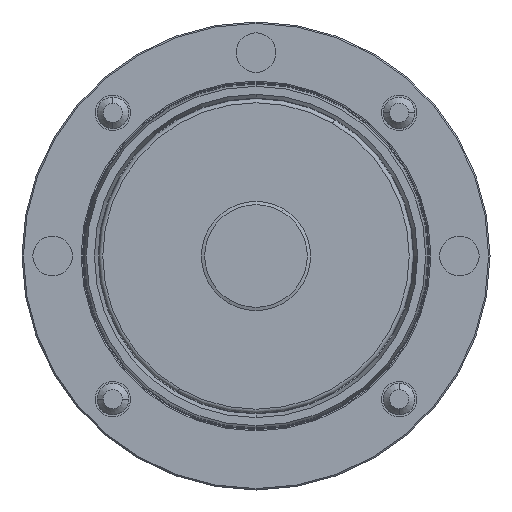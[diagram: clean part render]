
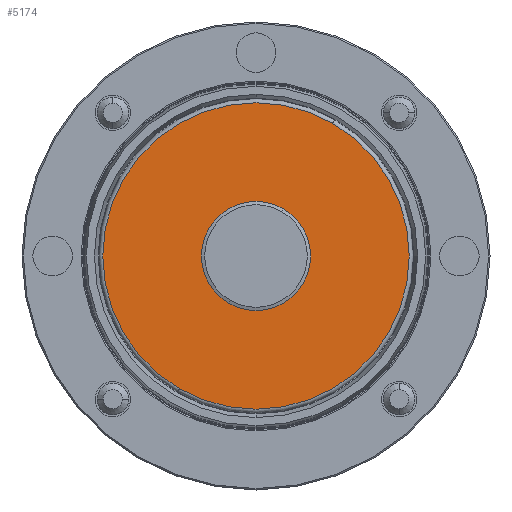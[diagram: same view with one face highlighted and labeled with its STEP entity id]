
A CAD part, front view. The second image highlights one B-rep face of the part: STEP entity #5174.
In plain terms, the highlighted planar face has unit normal (0, -1, 0).
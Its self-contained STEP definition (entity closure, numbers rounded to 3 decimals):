
#4608 = DIRECTION ( 'NONE',  ( 0., 0., 1. ) ) ;
#4609 = DIRECTION ( 'NONE',  ( 0., -1., 0. ) ) ;
#4610 = CARTESIAN_POINT ( 'NONE',  ( 0., -17.7, 0. ) ) ;
#4611 = AXIS2_PLACEMENT_3D ( 'NONE', #4610, #4609, #4608 ) ;
#4619 = CIRCLE ( 'NONE', #4611, 38.8 ) ;
#5125 = VERTEX_POINT ( 'NONE', #6603 ) ;
#5145 = VERTEX_POINT ( 'NONE', #6661 ) ;
#5148 = EDGE_CURVE ( 'NONE', #5149, #5150, #6640, .T. ) ;
#5149 = VERTEX_POINT ( 'NONE', #6636 ) ;
#5150 = VERTEX_POINT ( 'NONE', #6696 ) ;
#5164 = EDGE_CURVE ( 'NONE', #5150, #5149, #6684, .T. ) ;
#5168 = ORIENTED_EDGE ( 'NONE', *, *, #5164, .T. ) ;
#5169 = EDGE_CURVE ( 'NONE', #5145, #5125, #6719, .T. ) ;
#5173 = ORIENTED_EDGE ( 'NONE', *, *, #5169, .T. ) ;
#5174 = ADVANCED_FACE ( 'NONE', ( #6722, #6706 ), #6721, .F. ) ;
#5196 = EDGE_LOOP ( 'NONE', ( #5173, #5217 ) ) ;
#5217 = ORIENTED_EDGE ( 'NONE', *, *, #6304, .T. ) ;
#6292 = EDGE_LOOP ( 'NONE', ( #6299, #5168 ) ) ;
#6299 = ORIENTED_EDGE ( 'NONE', *, *, #5148, .T. ) ;
#6304 = EDGE_CURVE ( 'NONE', #5125, #5145, #4619, .T. ) ;
#6603 = CARTESIAN_POINT ( 'NONE',  ( 0., -17.7, -38.8 ) ) ;
#6636 = CARTESIAN_POINT ( 'NONE',  ( 0., -17.7, 13.824 ) ) ;
#6640 = CIRCLE ( 'NONE', #6660, 13.824 ) ;
#6660 = AXIS2_PLACEMENT_3D ( 'NONE', #6688, #6687, #6686 ) ;
#6661 = CARTESIAN_POINT ( 'NONE',  ( 0., -17.7, 38.8 ) ) ;
#6677 = AXIS2_PLACEMENT_3D ( 'NONE', #6700, #6699, #6698 ) ;
#6684 = CIRCLE ( 'NONE', #6726, 13.824 ) ;
#6686 = DIRECTION ( 'NONE',  ( 0., 0., 1. ) ) ;
#6687 = DIRECTION ( 'NONE',  ( 0., 1., 0. ) ) ;
#6688 = CARTESIAN_POINT ( 'NONE',  ( 0., -17.7, 0. ) ) ;
#6696 = CARTESIAN_POINT ( 'NONE',  ( 0., -17.7, -13.824 ) ) ;
#6698 = DIRECTION ( 'NONE',  ( 0., 0., 1. ) ) ;
#6699 = DIRECTION ( 'NONE',  ( 0., 1., 0. ) ) ;
#6700 = CARTESIAN_POINT ( 'NONE',  ( 39.8, -17.7, 0. ) ) ;
#6706 = FACE_BOUND ( 'NONE', #6292, .T. ) ;
#6710 = DIRECTION ( 'NONE',  ( 0., 0., 1. ) ) ;
#6711 = DIRECTION ( 'NONE',  ( 0., -1., 0. ) ) ;
#6712 = AXIS2_PLACEMENT_3D ( 'NONE', #6717, #6711, #6710 ) ;
#6717 = CARTESIAN_POINT ( 'NONE',  ( 0., -17.7, 0. ) ) ;
#6719 = CIRCLE ( 'NONE', #6712, 38.8 ) ;
#6721 = PLANE ( 'NONE',  #6677 ) ;
#6722 = FACE_OUTER_BOUND ( 'NONE', #5196, .T. ) ;
#6723 = DIRECTION ( 'NONE',  ( 0., 0., 1. ) ) ;
#6724 = DIRECTION ( 'NONE',  ( 0., 1., 0. ) ) ;
#6725 = CARTESIAN_POINT ( 'NONE',  ( 0., -17.7, 0. ) ) ;
#6726 = AXIS2_PLACEMENT_3D ( 'NONE', #6725, #6724, #6723 ) ;
